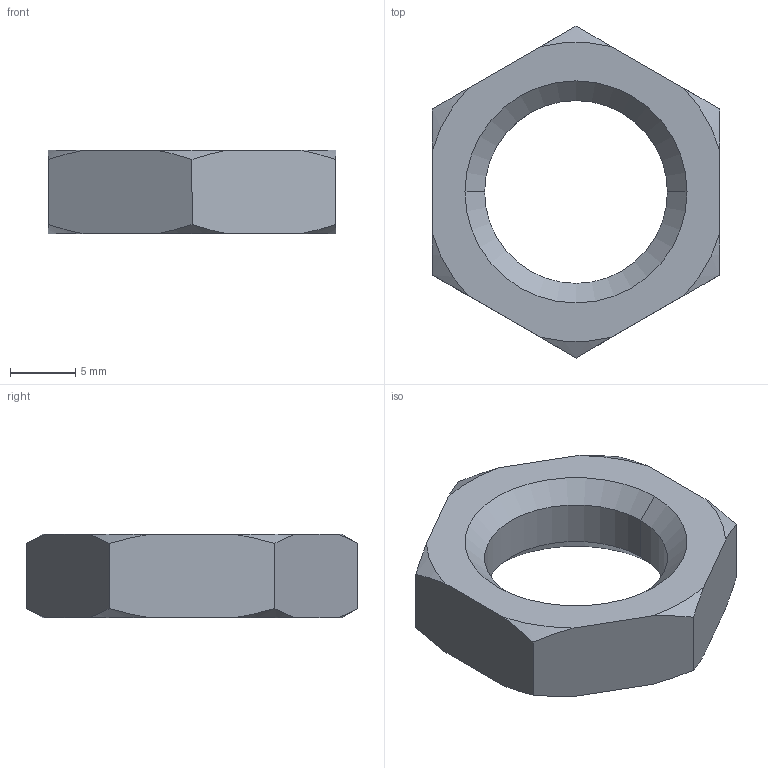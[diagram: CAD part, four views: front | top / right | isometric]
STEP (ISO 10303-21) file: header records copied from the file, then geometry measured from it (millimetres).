
FILE_DESCRIPTION (( 'STEP AP203' ), '1' );
FILE_NAME ('P0306.140-150-A2.step', '2018-12-15T14:54:01', ( '' ), ( '' ), 'SwSTEP 2.0', 'SolidWorks 2017', '' );
FILE_SCHEMA (( 'CONFIG_CONTROL_DESIGN' ));
Length unit declared in the file: millimetre
Products named in the file (1): P0306.140-150-A2
Bounding box: 22 x 25.4 x 6.42 mm (x, y, z)
Volume: 1588.1 mm3; surface area: 1211.6 mm2
Topology: 1 solids, 1 shells, 26 faces, 68 edges, 44 vertices
Faces by surface type: cone 16, plane 8, cylinder 2
Entity records: 929 total; most frequent: CARTESIAN_POINT 235, ORIENTED_EDGE 136, DIRECTION 118, EDGE_CURVE 68, AXIS2_PLACEMENT_3D 47, VERTEX_POINT 44, EDGE_LOOP 28, ADVANCED_FACE 26
